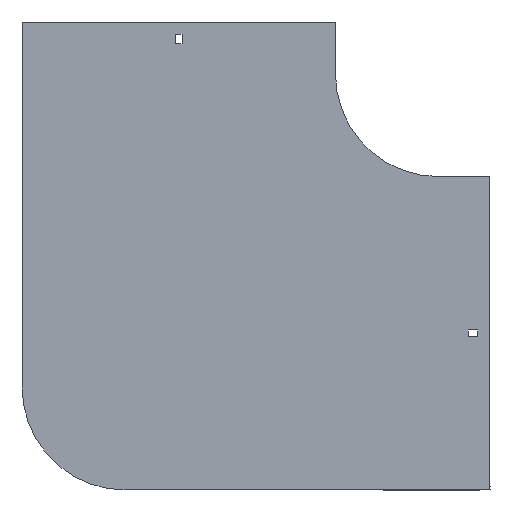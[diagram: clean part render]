
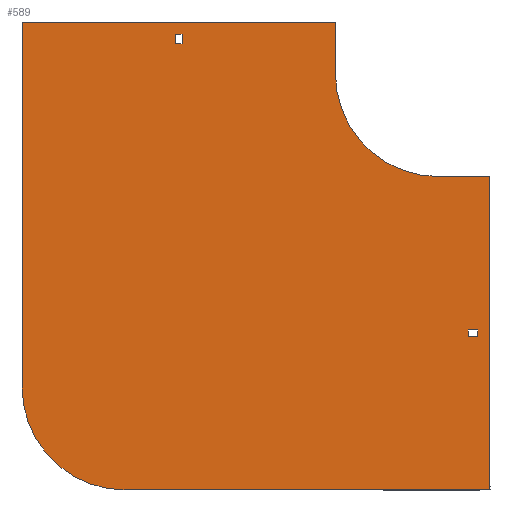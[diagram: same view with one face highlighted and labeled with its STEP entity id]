
A CAD part, front view. The second image highlights one B-rep face of the part: STEP entity #589.
In plain terms, the highlighted planar face has unit normal (0, -1, 0).
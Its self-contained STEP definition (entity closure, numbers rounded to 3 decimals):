
#10 = CARTESIAN_POINT ( 'NONE',  ( 38., 0., -255.25 ) ) ;
#24 = DIRECTION ( 'NONE',  ( 1., 0., 0. ) ) ;
#25 = CARTESIAN_POINT ( 'NONE',  ( 0., 0., 0. ) ) ;
#28 = CARTESIAN_POINT ( 'NONE',  ( -304., 0., -404. ) ) ;
#38 = VECTOR ( 'NONE', #1299, 1000. ) ;
#44 = CARTESIAN_POINT ( 'NONE',  ( -255.25, 0., 38. ) ) ;
#45 = VERTEX_POINT ( 'NONE', #822 ) ;
#51 = VECTOR ( 'NONE', #762, 1000. ) ;
#69 = FACE_OUTER_BOUND ( 'NONE', #1677, .T. ) ;
#75 = ORIENTED_EDGE ( 'NONE', *, *, #647, .F. ) ;
#76 = LINE ( 'NONE', #499, #443 ) ;
#79 = ORIENTED_EDGE ( 'NONE', *, *, #1053, .F. ) ;
#106 = LINE ( 'NONE', #992, #38 ) ;
#112 = EDGE_CURVE ( 'NONE', #611, #1070, #224, .T. ) ;
#119 = DIRECTION ( 'NONE',  ( 0., 0., -1. ) ) ;
#135 = CARTESIAN_POINT ( 'NONE',  ( 50., 0., -404. ) ) ;
#154 = CARTESIAN_POINT ( 'NONE',  ( 29., 0., -248.75 ) ) ;
#179 = EDGE_CURVE ( 'NONE', #1051, #1595, #106, .T. ) ;
#220 = DIRECTION ( 'NONE',  ( 0., 0., -1. ) ) ;
#224 = LINE ( 'NONE', #1319, #1790 ) ;
#232 = DIRECTION ( 'NONE',  ( 0., 0., -1. ) ) ;
#235 = DIRECTION ( 'NONE',  ( 0., -1., 0. ) ) ;
#270 = EDGE_CURVE ( 'NONE', #1070, #1051, #887, .T. ) ;
#273 = ORIENTED_EDGE ( 'NONE', *, *, #112, .T. ) ;
#290 = EDGE_CURVE ( 'NONE', #897, #688, #1200, .T. ) ;
#317 = ORIENTED_EDGE ( 'NONE', *, *, #270, .T. ) ;
#318 = ORIENTED_EDGE ( 'NONE', *, *, #1591, .F. ) ;
#319 = LINE ( 'NONE', #904, #1477 ) ;
#335 = DIRECTION ( 'NONE',  ( 0., -1., 0. ) ) ;
#358 = VECTOR ( 'NONE', #119, 1000. ) ;
#433 = DIRECTION ( 'NONE',  ( 0., 0., 1. ) ) ;
#437 = EDGE_CURVE ( 'NONE', #1564, #897, #1307, .T. ) ;
#439 = DIRECTION ( 'NONE',  ( 0., 0., -1. ) ) ;
#443 = VECTOR ( 'NONE', #1269, 1000. ) ;
#458 = ORIENTED_EDGE ( 'NONE', *, *, #179, .T. ) ;
#499 = CARTESIAN_POINT ( 'NONE',  ( -255.25, 0., 38. ) ) ;
#519 = CARTESIAN_POINT ( 'NONE',  ( 29., 0., -255.25 ) ) ;
#523 = CIRCLE ( 'NONE', #760, 100. ) ;
#541 = VERTEX_POINT ( 'NONE', #1651 ) ;
#573 = CARTESIAN_POINT ( 'NONE',  ( 29., 0., -255.25 ) ) ;
#581 = VERTEX_POINT ( 'NONE', #10 ) ;
#589 = ADVANCED_FACE ( 'NONE', ( #1086, #69, #1423 ), #1118, .T. ) ;
#598 = CARTESIAN_POINT ( 'NONE',  ( -255.25, 0., 29. ) ) ;
#611 = VERTEX_POINT ( 'NONE', #939 ) ;
#629 = CARTESIAN_POINT ( 'NONE',  ( 29., 0., -248.75 ) ) ;
#647 = EDGE_CURVE ( 'NONE', #688, #541, #1758, .T. ) ;
#688 = VERTEX_POINT ( 'NONE', #1192 ) ;
#689 = EDGE_CURVE ( 'NONE', #1038, #1228, #319, .T. ) ;
#711 = ORIENTED_EDGE ( 'NONE', *, *, #290, .F. ) ;
#722 = DIRECTION ( 'NONE',  ( -1., 0., 0. ) ) ;
#726 = DIRECTION ( 'NONE',  ( 1., 0., 0. ) ) ;
#747 = CARTESIAN_POINT ( 'NONE',  ( -404., 0., 50. ) ) ;
#750 = CIRCLE ( 'NONE', #1514, 100. ) ;
#754 = LINE ( 'NONE', #154, #1043 ) ;
#760 = AXIS2_PLACEMENT_3D ( 'NONE', #1188, #1656, #875 ) ;
#762 = DIRECTION ( 'NONE',  ( -1., 0., 0. ) ) ;
#775 = CARTESIAN_POINT ( 'NONE',  ( 50., 0., -404. ) ) ;
#786 = EDGE_CURVE ( 'NONE', #972, #1497, #1848, .T. ) ;
#801 = EDGE_CURVE ( 'NONE', #1595, #611, #76, .T. ) ;
#822 = CARTESIAN_POINT ( 'NONE',  ( 38., 0., -248.75 ) ) ;
#824 = VECTOR ( 'NONE', #433, 1000. ) ;
#827 = CARTESIAN_POINT ( 'NONE',  ( -404., 0., -304. ) ) ;
#865 = LINE ( 'NONE', #573, #1331 ) ;
#872 = ORIENTED_EDGE ( 'NONE', *, *, #801, .T. ) ;
#875 = DIRECTION ( 'NONE',  ( 0., 0., 1. ) ) ;
#880 = LINE ( 'NONE', #135, #953 ) ;
#886 = EDGE_CURVE ( 'NONE', #541, #1547, #750, .T. ) ;
#887 = LINE ( 'NONE', #1189, #51 ) ;
#897 = VERTEX_POINT ( 'NONE', #747 ) ;
#904 = CARTESIAN_POINT ( 'NONE',  ( 50., 0., -100. ) ) ;
#939 = CARTESIAN_POINT ( 'NONE',  ( -248.75, 0., 38. ) ) ;
#953 = VECTOR ( 'NONE', #722, 1000. ) ;
#963 = CARTESIAN_POINT ( 'NONE',  ( 0., 0., 0. ) ) ;
#971 = ORIENTED_EDGE ( 'NONE', *, *, #437, .F. ) ;
#972 = VERTEX_POINT ( 'NONE', #629 ) ;
#992 = CARTESIAN_POINT ( 'NONE',  ( -255.25, 0., 29. ) ) ;
#1038 = VERTEX_POINT ( 'NONE', #1821 ) ;
#1040 = DIRECTION ( 'NONE',  ( 0., 0., -1. ) ) ;
#1043 = VECTOR ( 'NONE', #1369, 1000. ) ;
#1051 = VERTEX_POINT ( 'NONE', #598 ) ;
#1053 = EDGE_CURVE ( 'NONE', #1228, #1889, #880, .T. ) ;
#1070 = VERTEX_POINT ( 'NONE', #1795 ) ;
#1077 = VECTOR ( 'NONE', #726, 1000. ) ;
#1086 = FACE_BOUND ( 'NONE', #1377, .T. ) ;
#1118 = PLANE ( 'NONE',  #1469 ) ;
#1182 = EDGE_LOOP ( 'NONE', ( #1629, #1199, #1216, #318 ) ) ;
#1188 = CARTESIAN_POINT ( 'NONE',  ( -304., 0., -304. ) ) ;
#1189 = CARTESIAN_POINT ( 'NONE',  ( -255.25, 0., 29. ) ) ;
#1192 = CARTESIAN_POINT ( 'NONE',  ( -100., 0., 50. ) ) ;
#1199 = ORIENTED_EDGE ( 'NONE', *, *, #1820, .F. ) ;
#1200 = LINE ( 'NONE', #1365, #1077 ) ;
#1216 = ORIENTED_EDGE ( 'NONE', *, *, #786, .F. ) ;
#1228 = VERTEX_POINT ( 'NONE', #775 ) ;
#1269 = DIRECTION ( 'NONE',  ( 1., 0., 0. ) ) ;
#1299 = DIRECTION ( 'NONE',  ( 0., 0., 1. ) ) ;
#1307 = LINE ( 'NONE', #827, #1561 ) ;
#1319 = CARTESIAN_POINT ( 'NONE',  ( -248.75, 0., 29. ) ) ;
#1331 = VECTOR ( 'NONE', #1443, 1000. ) ;
#1365 = CARTESIAN_POINT ( 'NONE',  ( -404., 0., 50. ) ) ;
#1369 = DIRECTION ( 'NONE',  ( -1., 0., 0. ) ) ;
#1375 = EDGE_CURVE ( 'NONE', #1547, #1038, #1750, .T. ) ;
#1377 = EDGE_LOOP ( 'NONE', ( #458, #872, #273, #317 ) ) ;
#1398 = CARTESIAN_POINT ( 'NONE',  ( 29., 0., -255.25 ) ) ;
#1423 = FACE_BOUND ( 'NONE', #1182, .T. ) ;
#1443 = DIRECTION ( 'NONE',  ( 1., 0., 0. ) ) ;
#1460 = CARTESIAN_POINT ( 'NONE',  ( -100., 0., 50. ) ) ;
#1469 = AXIS2_PLACEMENT_3D ( 'NONE', #963, #235, #220 ) ;
#1477 = VECTOR ( 'NONE', #1040, 1000. ) ;
#1497 = VERTEX_POINT ( 'NONE', #519 ) ;
#1514 = AXIS2_PLACEMENT_3D ( 'NONE', #25, #335, #439 ) ;
#1547 = VERTEX_POINT ( 'NONE', #1632 ) ;
#1561 = VECTOR ( 'NONE', #1890, 1000. ) ;
#1564 = VERTEX_POINT ( 'NONE', #1764 ) ;
#1566 = ORIENTED_EDGE ( 'NONE', *, *, #1375, .F. ) ;
#1574 = ORIENTED_EDGE ( 'NONE', *, *, #1839, .F. ) ;
#1591 = EDGE_CURVE ( 'NONE', #45, #972, #754, .T. ) ;
#1595 = VERTEX_POINT ( 'NONE', #44 ) ;
#1607 = ORIENTED_EDGE ( 'NONE', *, *, #689, .F. ) ;
#1629 = ORIENTED_EDGE ( 'NONE', *, *, #1912, .F. ) ;
#1630 = DIRECTION ( 'NONE',  ( 0., 0., -1. ) ) ;
#1632 = CARTESIAN_POINT ( 'NONE',  ( 0., 0., -100. ) ) ;
#1651 = CARTESIAN_POINT ( 'NONE',  ( -100., 0., 0. ) ) ;
#1656 = DIRECTION ( 'NONE',  ( 0., 1., 0. ) ) ;
#1677 = EDGE_LOOP ( 'NONE', ( #711, #971, #1574, #79, #1607, #1566, #1827, #75 ) ) ;
#1750 = LINE ( 'NONE', #1919, #1925 ) ;
#1758 = LINE ( 'NONE', #1460, #358 ) ;
#1764 = CARTESIAN_POINT ( 'NONE',  ( -404., 0., -304. ) ) ;
#1778 = LINE ( 'NONE', #1791, #824 ) ;
#1790 = VECTOR ( 'NONE', #1630, 1000. ) ;
#1791 = CARTESIAN_POINT ( 'NONE',  ( 38., 0., -255.25 ) ) ;
#1795 = CARTESIAN_POINT ( 'NONE',  ( -248.75, 0., 29. ) ) ;
#1797 = VECTOR ( 'NONE', #232, 1000. ) ;
#1820 = EDGE_CURVE ( 'NONE', #1497, #581, #865, .T. ) ;
#1821 = CARTESIAN_POINT ( 'NONE',  ( 50., 0., -100. ) ) ;
#1827 = ORIENTED_EDGE ( 'NONE', *, *, #886, .F. ) ;
#1839 = EDGE_CURVE ( 'NONE', #1889, #1564, #523, .T. ) ;
#1848 = LINE ( 'NONE', #1398, #1797 ) ;
#1889 = VERTEX_POINT ( 'NONE', #28 ) ;
#1890 = DIRECTION ( 'NONE',  ( 0., 0., 1. ) ) ;
#1912 = EDGE_CURVE ( 'NONE', #581, #45, #1778, .T. ) ;
#1919 = CARTESIAN_POINT ( 'NONE',  ( 0., 0., -100. ) ) ;
#1925 = VECTOR ( 'NONE', #24, 1000. ) ;
